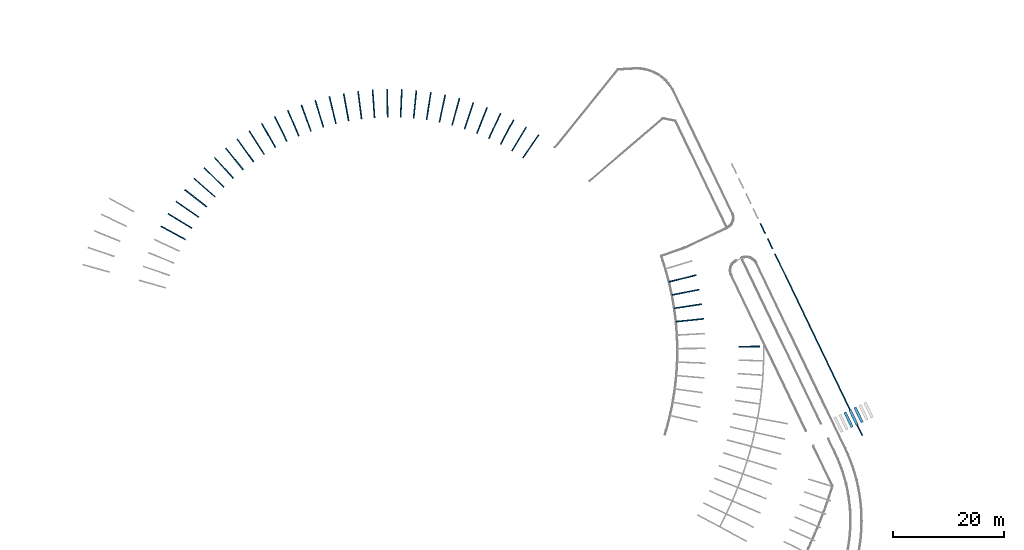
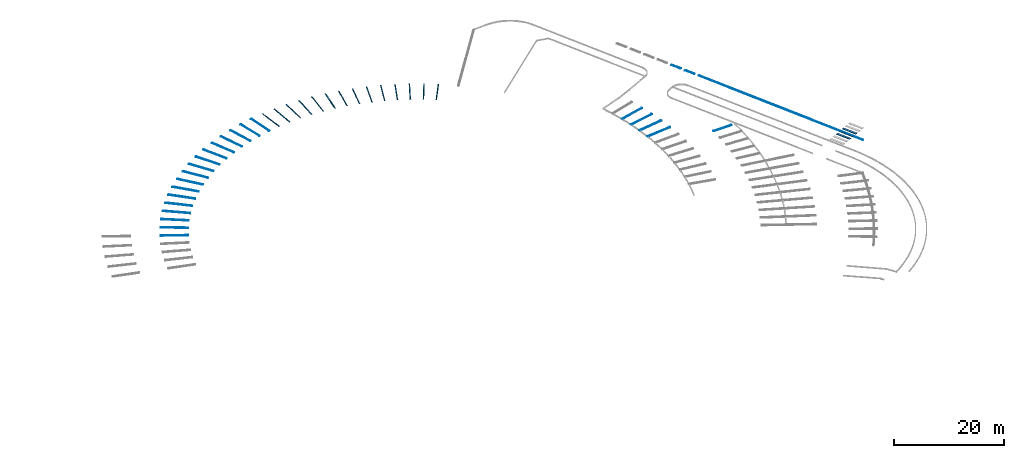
# One storey, part 91 of 157: 42 walls.
"""IFC2X3 building model written with IfcOpenShell, lengths in millimetres."""

from ifc_helpers import new_model, entity, si_unit, converted_unit, derived_unit, direction, frame, frame_2d, origin, origin_2d_with_axis, place, context, subcontext, project, spatial, rectangle, extrude, material, type_object, element, save


model = new_model("IFC2X3")

# Units and contexts
model_context = context("Model", 3, precision=0.01, world=origin(), true_north=direction((6.123031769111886e-17, 1.0)))
body_context = subcontext(model_context, "Body", "Model", "MODEL_VIEW")
ifc_project = project(units=[si_unit("LENGTHUNIT", "METRE", prefix="MILLI"), si_unit("AREAUNIT", "SQUARE_METRE"), si_unit("VOLUMEUNIT", "CUBIC_METRE"), converted_unit("PLANEANGLEUNIT", "DEGREE", entity("IfcRatioMeasure", 0.017453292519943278), si_unit("PLANEANGLEUNIT", "RADIAN"), dimensions=[0, 0, 0, 0, 0, 0, 0]), si_unit("MASSUNIT", "GRAM", prefix="KILO"), derived_unit("MASSDENSITYUNIT", [(si_unit("MASSUNIT", "GRAM", prefix="KILO"), 1), (si_unit("LENGTHUNIT", "METRE"), -3)]), derived_unit("MOMENTOFINERTIAUNIT", [(si_unit("LENGTHUNIT", "METRE"), 4)]), si_unit("TIMEUNIT", "SECOND"), si_unit("FREQUENCYUNIT", "HERTZ"), si_unit("THERMODYNAMICTEMPERATUREUNIT", "DEGREE_CELSIUS"), derived_unit("THERMALTRANSMITTANCEUNIT", [(si_unit("MASSUNIT", "GRAM", prefix="KILO"), 1), (si_unit("THERMODYNAMICTEMPERATUREUNIT", "KELVIN"), -1), (si_unit("TIMEUNIT", "SECOND"), -3)]), derived_unit("THERMALCONDUCTANCEUNIT", [(si_unit("MASSUNIT", "GRAM", prefix="KILO"), 1), (si_unit("LENGTHUNIT", "METRE"), 1), (si_unit("THERMODYNAMICTEMPERATUREUNIT", "KELVIN"), -1), (si_unit("TIMEUNIT", "SECOND"), -3)]), derived_unit("VOLUMETRICFLOWRATEUNIT", [(si_unit("LENGTHUNIT", "METRE"), 3), (si_unit("TIMEUNIT", "SECOND"), -1)]), derived_unit("MASSFLOWRATEUNIT", [(si_unit("MASSUNIT", "GRAM", prefix="KILO"), 1), (si_unit("TIMEUNIT", "SECOND"), -1)]), derived_unit("ROTATIONALFREQUENCYUNIT", [(si_unit("TIMEUNIT", "SECOND"), -1)]), si_unit("ELECTRICCURRENTUNIT", "AMPERE"), si_unit("ELECTRICVOLTAGEUNIT", "VOLT"), si_unit("POWERUNIT", "WATT"), converted_unit("FORCEUNIT", "KIP", entity("IfcRatioMeasure", 2.088543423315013e-05), si_unit("FORCEUNIT", "NEWTON"), dimensions=[1, 1, -2, 0, 0, 0, 0]), si_unit("ILLUMINANCEUNIT", "LUX"), si_unit("LUMINOUSFLUXUNIT", "LUMEN"), si_unit("LUMINOUSINTENSITYUNIT", "CANDELA"), derived_unit("USERDEFINED", [(si_unit("MASSUNIT", "GRAM", prefix="KILO"), -1), (si_unit("LENGTHUNIT", "METRE"), -2), (si_unit("TIMEUNIT", "SECOND"), 3), (si_unit("LUMINOUSFLUXUNIT", "LUMEN"), 1)]), derived_unit("USERDEFINED", [(si_unit("MASSUNIT", "GRAM", prefix="KILO"), 1), (si_unit("LENGTHUNIT", "METRE"), 3), (si_unit("TIMEUNIT", "SECOND"), -3), (si_unit("ELECTRICCURRENTUNIT", "AMPERE"), -2)]), derived_unit("USERDEFINED", [(si_unit("LENGTHUNIT", "METRE"), 2), (si_unit("TIMEUNIT", "SECOND"), -2)]), derived_unit("SOUNDPOWERUNIT", [(si_unit("MASSUNIT", "GRAM", prefix="KILO"), 1), (si_unit("LENGTHUNIT", "METRE"), 2), (si_unit("TIMEUNIT", "SECOND"), -3)]), derived_unit("SOUNDPRESSUREUNIT", [(si_unit("MASSUNIT", "GRAM", prefix="KILO"), 1), (si_unit("LENGTHUNIT", "METRE"), -1), (si_unit("TIMEUNIT", "SECOND"), -2)]), derived_unit("LINEARVELOCITYUNIT", [(si_unit("LENGTHUNIT", "METRE"), 1), (si_unit("TIMEUNIT", "SECOND"), -1)]), si_unit("PRESSUREUNIT", "PASCAL"), derived_unit("USERDEFINED", [(si_unit("LENGTHUNIT", "METRE"), -2), (si_unit("MASSUNIT", "GRAM", prefix="KILO"), 1), (si_unit("TIMEUNIT", "SECOND"), -2)]), derived_unit("LINEARFORCEUNIT", [(si_unit("MASSUNIT", "GRAM", prefix="KILO"), 1), (si_unit("LENGTHUNIT", "METRE"), 1), (si_unit("TIMEUNIT", "SECOND"), -2), (si_unit("LENGTHUNIT", "METRE"), -1)]), derived_unit("PLANARFORCEUNIT", [(si_unit("MASSUNIT", "GRAM", prefix="KILO"), 1), (si_unit("LENGTHUNIT", "METRE"), 1), (si_unit("TIMEUNIT", "SECOND"), -2), (si_unit("LENGTHUNIT", "METRE"), -2)]), derived_unit("SPECIFICHEATCAPACITYUNIT", [(si_unit("LENGTHUNIT", "METRE"), 2), (si_unit("TIMEUNIT", "SECOND"), -2), (si_unit("THERMODYNAMICTEMPERATUREUNIT", "KELVIN"), -1)]), derived_unit("VAPORPERMEABILITYUNIT", [(si_unit("TIMEUNIT", "SECOND"), 1), (si_unit("LENGTHUNIT", "METRE"), -1)]), derived_unit("DYNAMICVISCOSITYUNIT", [(si_unit("MASSUNIT", "GRAM", prefix="KILO"), 1), (si_unit("LENGTHUNIT", "METRE"), -1), (si_unit("TIMEUNIT", "SECOND"), -1)]), derived_unit("THERMALEXPANSIONCOEFFICIENTUNIT", [(si_unit("THERMODYNAMICTEMPERATUREUNIT", "KELVIN"), -1)])], contexts=[model_context])

# Site, building, storey
site_placement = place(None, frame((0.0, 0.0, 0.0), z_axis=(0.0, 0.0, 1.0), x_axis=(0.8191520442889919, 0.5735764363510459, 0.0)))
site = spatial("IfcSite", under=ifc_project, at=site_placement, Name="Default", CompositionType="ELEMENT")
building_placement = place(site_placement, origin())
building = spatial("IfcBuilding", under=site, at=building_placement, CompositionType="ELEMENT")
storey_placement = place(building_placement, origin())
storey = spatial("IfcBuildingStorey", under=building, at=storey_placement, Name="1.EG +0.00", CompositionType="ELEMENT", Elevation=-4.331468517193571e-12)

# Walls
ifc_material = material(Name="road_markirovka")
wall_type_1 = type_object("IfcWallType", Name="83", PredefinedType="NOTDEFINED", material=ifc_material)
wall_1_placement = place(storey_placement, frame((-61431.673957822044, -30426.857752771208, 400.0), z_axis=(0.0, 0.0, 1.0), x_axis=(0.0, 1.0, 0.0)))
element("IfcWall", 1, at=wall_1_placement, inside=storey, type_object=wall_type_1, material=ifc_material, Name="83 203187:83 203187", ObjectType="83 203187:83 203187", context=body_context, shape_type="SweptSolid", body=[
    extrude(rectangle(XDim=200.0, YDim=5000.000000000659, at=frame_2d((3.858247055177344e-12, -1.8189894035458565e-12), x_axis=(1.0, 0.0))), frame((2280.762941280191, -1207.5329403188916, 0.0), z_axis=(0.0, 0.0, 1.0), x_axis=(0.4472365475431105, -0.8944157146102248, 0.0)), (0.0, 0.0, 1.0), 9.999999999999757),
])
wall_type_2 = type_object("IfcWallType", Name="81", PredefinedType="NOTDEFINED", material=ifc_material)
wall_2_placement = place(storey_placement, frame((20242.18269222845, -129011.67128585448, 350.0), z_axis=(0.0, 0.0, 1.0), x_axis=(0.0, 1.0, 0.0)))
element("IfcWall", 2, at=wall_2_placement, inside=storey, type_object=wall_type_2, material=ifc_material, Name="81 204962:81 204962", ObjectType="81 204962:81 204962", context=body_context, shape_type="SweptSolid", body=[
    extrude(rectangle(XDim=199.9999999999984, YDim=36229.82861112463, at=frame_2d((-1.3500311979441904e-12, 9.094947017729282e-12), x_axis=(1.0, 0.0))), frame((17891.291949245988, -3036.6816232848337, 0.0), z_axis=(0.0, 0.0, 1.0), x_axis=(0.16218711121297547, 0.9867600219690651, 0.0)), (0.0, 0.0, 1.0), 9.999999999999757),
])
wall_type_3 = type_object("IfcWallType", Name="99", PredefinedType="NOTDEFINED", material=ifc_material)
wall_3_placement = place(storey_placement, frame((6770.390947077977, -90808.59744262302, 450.0)))
element("IfcWall", 3, at=wall_3_placement, inside=storey, type_object=wall_type_3, material=ifc_material, Name="99:99", ObjectType="99:99", context=body_context, shape_type="SweptSolid", body=[
    extrude(rectangle(XDim=200.00000000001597, YDim=4999.999999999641, at=origin_2d_with_axis()), frame((2328.300240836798, 1099.0192727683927, 0.0), z_axis=(0.0, 0.0, 1.0), x_axis=(0.4029997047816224, 0.9152001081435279, 0.0)), (0.0, 0.0, 1.0), 9.999999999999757),
])
wall_type_4 = type_object("IfcWallType", Name="98", PredefinedType="NOTDEFINED", material=ifc_material)
wall_4_placement = place(storey_placement, frame((5737.650777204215, -93213.80551710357, 450.0)))
element("IfcWall", 4, at=wall_4_placement, inside=storey, type_object=wall_type_4, material=ifc_material, Name="98:98", ObjectType="98:98", context=body_context, shape_type="SweptSolid", body=[
    extrude(rectangle(XDim=200.0000000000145, YDim=4999.999999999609, at=frame_2d((7.311484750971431e-12, 4.547473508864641e-12), x_axis=(1.0, 0.0))), frame((2282.634585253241, 1203.5357259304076, 0.0), z_axis=(0.0, 0.0, 1.0), x_axis=(0.44560510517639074, 0.8952296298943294, 0.0)), (0.0, 0.0, 1.0), 9.999999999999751),
])
wall_type_5 = type_object("IfcWallType", Name="97", PredefinedType="NOTDEFINED", material=ifc_material)
wall_5_placement = place(storey_placement, frame((4602.9324376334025, -95563.07318523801, 450.0)))
element("IfcWall", 5, at=wall_5_placement, inside=storey, type_object=wall_type_5, material=ifc_material, Name="97:97", ObjectType="97:97", context=body_context, shape_type="SweptSolid", body=[
    extrude(rectangle(XDim=200.00000000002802, YDim=4999.999999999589, at=frame_2d((-9.407585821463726e-12, -9.094947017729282e-13), x_axis=(1.0, 0.0))), frame((2231.915085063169, 1305.387502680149, 0.0), z_axis=(0.0, 0.0, 1.0), x_axis=(0.48722391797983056, 0.8732770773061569, 0.0)), (0.0, 0.0, 1.0), 9.999999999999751),
])
wall_type_6 = type_object("IfcWallType", Name="99", PredefinedType="NOTDEFINED", material=ifc_material)
wall_6_placement = place(storey_placement, frame((11242.14878022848, -105398.48595152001, 410.0)))
element("IfcWall", 6, at=wall_6_placement, inside=storey, type_object=wall_type_6, material=ifc_material, Name="99 206446:99 206446", ObjectType="99 206446:99 206446", context=body_context, shape_type="SweptSolid", body=[
    extrude(rectangle(XDim=199.9999999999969, YDim=3782.607252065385, at=frame_2d((6.565414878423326e-12, 6.0254023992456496e-12), x_axis=(1.0, 0.0))), frame((1618.4621091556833, 1148.857645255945, 0.0), z_axis=(0.0, 0.0, 1.0), x_axis=(0.5637723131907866, 0.8259302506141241, 0.0)), (0.0, 0.0, 1.0), 9.999999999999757),
])
wall_type_7 = type_object("IfcWallType", Name="82", PredefinedType="NOTDEFINED", material=ifc_material)
wall_7_placement = place(storey_placement, frame((26766.942379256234, -89314.4847217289, 350.0), z_axis=(0.0, 0.0, 1.0), x_axis=(0.0, 1.0, 0.0)))
element("IfcWall", 7, at=wall_7_placement, inside=storey, type_object=wall_type_7, material=ifc_material, Name="82 206546:82 206546", ObjectType="82 206546:82 206546", context=body_context, shape_type="SweptSolid", body=[
    extrude(rectangle(XDim=200.00000000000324, YDim=2000.0000000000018, at=frame_2d((-7.318590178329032e-13, -8.924416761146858e-12), x_axis=(1.0, 0.0))), frame((1002.9787330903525, -260.86311340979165, 0.0), z_axis=(0.0, 0.0, 1.0), x_axis=(0.16218711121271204, 0.9867600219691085, 0.0)), (0.0, 0.0, 1.0), 9.999999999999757),
])
wall_type_8 = type_object("IfcWallType", Name="81", PredefinedType="NOTDEFINED", material=ifc_material)
wall_8_placement = place(storey_placement, frame((26280.38104561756, -92274.76478763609, 350.0), z_axis=(0.0, 0.0, 1.0), x_axis=(0.0, 1.0, 0.0)))
element("IfcWall", 8, at=wall_8_placement, inside=storey, type_object=wall_type_8, material=ifc_material, Name="81 206547:81 206547", ObjectType="81 206547:81 206547", context=body_context, shape_type="SweptSolid", body=[
    extrude(rectangle(XDim=199.99999999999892, YDim=1999.9999999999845, at=frame_2d((4.952482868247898e-12, -1.6768808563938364e-11), x_axis=(1.0, 0.0))), frame((1002.9787330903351, -260.863113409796, 0.0), z_axis=(0.0, 0.0, 1.0), x_axis=(0.1621871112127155, 0.986760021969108, 0.0)), (0.0, 0.0, 1.0), 9.999999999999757),
])
wall_type_9 = type_object("IfcWallType", Name="00", PredefinedType="NOTDEFINED", material=ifc_material)
wall_9_placement = place(storey_placement, frame((7698.8664190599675, -88352.77418902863, 450.0)))
element("IfcWall", 9, at=wall_9_placement, inside=storey, type_object=wall_type_9, material=ifc_material, Name="00 206555:00 206555", ObjectType="00 206555:00 206555", context=body_context, shape_type="SweptSolid", body=[
    extrude(rectangle(XDim=199.99999999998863, YDim=4999.999999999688, at=frame_2d((7.51754214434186e-12, 4.547473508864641e-12), x_axis=(1.0, 0.0))), frame((2368.8109462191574, 992.0695468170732, 0.0), z_axis=(0.0, 0.0, 1.0), x_axis=(0.35950204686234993, 0.9331442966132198, 0.0)), (0.0, 0.0, 1.0), 9.999999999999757),
])
wall_type_10 = type_object("IfcWallType", Name="02", PredefinedType="NOTDEFINED", material=ifc_material)
wall_10_placement = place(storey_placement, frame((-2949.7824114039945, -48960.21146410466, 400.0)))
element("IfcWall", 10, at=wall_10_placement, inside=storey, type_object=wall_type_10, material=ifc_material, Name="02:02", ObjectType="02:02", context=body_context, shape_type="SweptSolid", body=[
    extrude(rectangle(XDim=199.99999999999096, YDim=5000.000000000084, at=frame_2d((3.723243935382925e-12, -2.2737367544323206e-12), x_axis=(1.0, 0.0))), frame((2272.6673401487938, 1224.5942042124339, 0.0), z_axis=(0.0, 0.0, 1.0), x_axis=(-0.45420172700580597, 0.8908988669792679, 0.0)), (0.0, 0.0, 1.0), 9.999999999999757),
])
wall_type_11 = type_object("IfcWallType", Name="04", PredefinedType="NOTDEFINED", material=ifc_material)
wall_11_placement = place(storey_placement, frame((-1047.1981333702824, -53252.213765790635, 400.0)))
element("IfcWall", 11, at=wall_11_placement, inside=storey, type_object=wall_type_11, material=ifc_material, Name="04 206644:04 206644", ObjectType="04 206644:04 206644", context=body_context, shape_type="SweptSolid", body=[
    extrude(rectangle(XDim=199.99999999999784, YDim=5000.000000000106, at=frame_2d((8.462563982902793e-12, -2.2737367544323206e-12), x_axis=(1.0, 0.0))), frame((2375.100440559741, 973.8917276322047, 0.0), z_axis=(0.0, 0.0, 1.0), x_axis=(-0.3521184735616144, 0.9359554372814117, 0.0)), (0.0, 0.0, 1.0), 9.999999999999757),
])
wall_type_12 = type_object("IfcWallType", Name="02", PredefinedType="NOTDEFINED", material=ifc_material)
wall_12_placement = place(storey_placement, frame((-4077.2826929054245, -46899.632795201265, 400.0)))
element("IfcWall", 12, at=wall_12_placement, inside=storey, type_object=wall_type_12, material=ifc_material, Name="02 206647:02 206647", ObjectType="02 206647:02 206647", context=body_context, shape_type="SweptSolid", body=[
    extrude(rectangle(XDim=199.99999999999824, YDim=5000.000000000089, at=frame_2d((-3.723243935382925e-12, 2.2737367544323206e-12), x_axis=(1.0, 0.0))), frame((2210.7456572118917, 1344.4157393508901, 0.0), z_axis=(0.0, 0.0, 1.0), x_axis=(-0.5031994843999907, 0.8641702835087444, 0.0)), (0.0, 0.0, 1.0), 9.999999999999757),
])
wall_type_13 = type_object("IfcWallType", Name="00", PredefinedType="NOTDEFINED", material=ifc_material)
wall_13_placement = place(storey_placement, frame((-6667.148552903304, -42981.395971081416, 400.0)))
element("IfcWall", 13, at=wall_13_placement, inside=storey, type_object=wall_type_13, material=ifc_material, Name="00 206648:00 206648", ObjectType="00 206648:00 206648", context=body_context, shape_type="SweptSolid", body=[
    extrude(rectangle(XDim=199.99999999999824, YDim=5000.000000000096, at=frame_2d((3.588240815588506e-12, -2.2737367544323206e-12), x_axis=(1.0, 0.0))), frame((2066.4559162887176, 1571.134227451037, 0.0), z_axis=(0.0, 0.0, 1.0), x_axis=(-0.5963445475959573, 0.802728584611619, 0.0)), (0.0, 0.0, 1.0), 9.999999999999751),
])
wall_type_14 = type_object("IfcWallType", Name="99", PredefinedType="NOTDEFINED", material=ifc_material)
wall_14_placement = place(storey_placement, frame((-8121.446187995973, -41135.943897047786, 400.0)))
element("IfcWall", 14, at=wall_14_placement, inside=storey, type_object=wall_type_14, material=ifc_material, Name="99 206651:99 206651", ObjectType="99 206651:99 206651", context=body_context, shape_type="SweptSolid", body=[
    extrude(rectangle(XDim=200.00000000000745, YDim=5000.000000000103, at=frame_2d((2.7000623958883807e-13, 2.2737367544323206e-13), x_axis=(1.0, 0.0))), frame((1984.5373493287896, 1677.3249075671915, 0.0), z_axis=(0.0, 0.0, 1.0), x_axis=(-0.6402016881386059, 0.7682068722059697, 0.0)), (0.0, 0.0, 1.0), 9.999999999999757),
])
wall_type_15 = type_object("IfcWallType", Name="98", PredefinedType="NOTDEFINED", material=ifc_material)
wall_15_placement = place(storey_placement, frame((-9676.055261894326, -39374.015406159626, 400.0)))
element("IfcWall", 15, at=wall_15_placement, inside=storey, type_object=wall_type_15, material=ifc_material, Name="98 206652:98 206652", ObjectType="98 206652:98 206652", context=body_context, shape_type="SweptSolid", body=[
    extrude(rectangle(XDim=200.00000000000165, YDim=5000.000000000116, at=frame_2d((-2.7000623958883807e-13, -4.547473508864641e-13), x_axis=(1.0, 0.0))), frame((1896.43655677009, 1778.29038948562, 0.0), z_axis=(0.0, 0.0, 1.0), x_axis=(-0.6820644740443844, 0.7312920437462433, 0.0)), (0.0, 0.0, 1.0), 9.999999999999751),
])
wall_type_16 = type_object("IfcWallType", Name="96", PredefinedType="NOTDEFINED", material=ifc_material)
wall_16_placement = place(storey_placement, frame((-13066.538666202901, -36122.406903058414, 400.0), z_axis=(0.0, 0.0, 1.0), x_axis=(0.0, 1.0, 0.0)))
element("IfcWall", 16, at=wall_16_placement, inside=storey, type_object=wall_type_16, material=ifc_material, Name="96 206655:96 206655", ObjectType="96 206655:96 206655", context=body_context, shape_type="SweptSolid", body=[
    extrude(rectangle(XDim=199.9999999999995, YDim=5000.000000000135, at=frame_2d((-2.2382096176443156e-12, 9.094947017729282e-13), x_axis=(1.0, 0.0))), frame((1963.3049064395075, -1702.8045041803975, 0.0), z_axis=(0.0, 0.0, 1.0), x_axis=(0.6507501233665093, 0.7592919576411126, 0.0)), (0.0, 0.0, 1.0), 9.999999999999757),
])
wall_type_17 = type_object("IfcWallType", Name="96", PredefinedType="NOTDEFINED", material=ifc_material)
wall_17_placement = place(storey_placement, frame((-14891.850971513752, -34642.85629321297, 400.0), z_axis=(0.0, 0.0, 1.0), x_axis=(0.0, 1.0, 0.0)))
element("IfcWall", 17, at=wall_17_placement, inside=storey, type_object=wall_type_17, material=ifc_material, Name="96 206656:96 206656", ObjectType="96 206656:96 206656", context=body_context, shape_type="SweptSolid", body=[
    extrude(rectangle(XDim=199.99999999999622, YDim=5000.000000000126, at=frame_2d((3.0482283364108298e-12, -2.2737367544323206e-13), x_axis=(1.0, 0.0))), frame((2046.777584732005, -1597.876446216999, 0.0), z_axis=(0.0, 0.0, 1.0), x_axis=(0.607373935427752, 0.7944160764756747, 0.0)), (0.0, 0.0, 1.0), 9.999999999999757),
])
wall_type_18 = type_object("IfcWallType", Name="95", PredefinedType="NOTDEFINED", material=ifc_material)
wall_18_placement = place(storey_placement, frame((-18774.203461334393, -31999.293459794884, 400.0), z_axis=(0.0, 0.0, 1.0), x_axis=(0.0, 1.0, 0.0)))
element("IfcWall", 18, at=wall_18_placement, inside=storey, type_object=wall_type_18, material=ifc_material, Name="95 206659:95 206659", ObjectType="95 206659:95 206659", context=body_context, shape_type="SweptSolid", body=[
    extrude(rectangle(XDim=200.00000000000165, YDim=5000.000000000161, at=frame_2d((-1.1439738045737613e-12, 1.8189894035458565e-12), x_axis=(1.0, 0.0))), frame((2194.354421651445, -1373.4296067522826, 0.0), z_axis=(0.0, 0.0, 1.0), x_axis=(0.515086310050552, 0.8571383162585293, 0.0)), (0.0, 0.0, 1.0), 9.999999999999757),
])
wall_type_19 = type_object("IfcWallType", Name="96", PredefinedType="NOTDEFINED", material=ifc_material)
wall_19_placement = place(storey_placement, frame((-16796.383568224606, -33267.05651616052, 400.0), z_axis=(0.0, 0.0, 1.0), x_axis=(0.0, 1.0, 0.0)))
element("IfcWall", 19, at=wall_19_placement, inside=storey, type_object=wall_type_19, material=ifc_material, Name="96 206660:96 206660", ObjectType="96 206660:96 206660", context=body_context, shape_type="SweptSolid", body=[
    extrude(rectangle(XDim=199.9999999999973, YDim=5000.00000000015, at=origin_2d_with_axis()), frame((2123.874146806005, -1487.9706876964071, 0.0), z_axis=(0.0, 0.0, 1.0), x_axis=(0.5621056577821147, 0.8270654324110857, 0.0)), (0.0, 0.0, 1.0), 9.999999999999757),
])
wall_type_20 = type_object("IfcWallType", Name="94", PredefinedType="NOTDEFINED", material=ifc_material)
wall_20_placement = place(storey_placement, frame((-20819.1493514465, -30843.516456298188, 400.0), z_axis=(0.0, 0.0, 1.0), x_axis=(0.0, 1.0, 0.0)))
element("IfcWall", 20, at=wall_20_placement, inside=storey, type_object=wall_type_20, material=ifc_material, Name="94 206662:94 206662", ObjectType="94 206662:94 206662", context=body_context, shape_type="SweptSolid", body=[
    extrude(rectangle(XDim=199.99999999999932, YDim=5000.000000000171, at=origin_2d_with_axis()), frame((2257.9988492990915, -1254.6100214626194, 0.0), z_axis=(0.0, 0.0, 1.0), x_axis=(0.46646236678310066, 0.8845410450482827, 0.0)), (0.0, 0.0, 1.0), 9.999999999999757),
])
wall_type_21 = type_object("IfcWallType", Name="03", PredefinedType="NOTDEFINED", material=ifc_material)
wall_21_placement = place(storey_placement, frame((-1938.7043222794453, -51079.93957814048, 400.0)))
element("IfcWall", 21, at=wall_21_placement, inside=storey, type_object=wall_type_21, material=ifc_material, Name="03:03", ObjectType="03:03", context=body_context, shape_type="SweptSolid", body=[
    extrude(rectangle(XDim=199.99999999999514, YDim=5000.000000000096, at=frame_2d((-4.760636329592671e-13, -9.094947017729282e-13), x_axis=(1.0, 0.0))), frame((2327.5092156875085, 1100.9578163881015, 0.0), z_axis=(0.0, 0.0, 1.0), x_axis=(-0.40378904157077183, 0.914852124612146, 0.0)), (0.0, 0.0, 1.0), 9.999999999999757),
])
wall_type_22 = type_object("IfcWallType", Name="94", PredefinedType="NOTDEFINED", material=ifc_material)
wall_22_placement = place(storey_placement, frame((-22924.850828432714, -29803.32597919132, 400.0), z_axis=(0.0, 0.0, 1.0), x_axis=(0.0, 1.0, 0.0)))
element("IfcWall", 22, at=wall_22_placement, inside=storey, type_object=wall_type_22, material=ifc_material, Name="94 206686:94 206686", ObjectType="94 206686:94 206686", context=body_context, shape_type="SweptSolid", body=[
    extrude(rectangle(XDim=199.99999999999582, YDim=5000.000000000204, at=origin_2d_with_axis()), frame((2314.6091647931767, -1131.8820782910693, 0.0), z_axis=(0.0, 0.0, 1.0), x_axis=(-0.416385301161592, -0.909188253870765, 0.0)), (0.0, 0.0, 1.0), 9.999999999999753),
])
wall_type_23 = type_object("IfcWallType", Name="93", PredefinedType="NOTDEFINED", material=ifc_material)
wall_23_placement = place(storey_placement, frame((-25084.74821651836, -28881.962427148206, 400.0), z_axis=(0.0, 0.0, 1.0), x_axis=(0.0, 1.0, 0.0)))
element("IfcWall", 23, at=wall_23_placement, inside=storey, type_object=wall_type_23, material=ifc_material, Name="93 206689:93 206689", ObjectType="93 206689:93 206689", context=body_context, shape_type="SweptSolid", body=[
    extrude(rectangle(XDim=199.99999999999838, YDim=5000.0000000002, at=origin_2d_with_axis()), frame((2364.009015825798, -1005.628099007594, 0.0), z_axis=(0.0, 0.0, 1.0), x_axis=(-0.3650111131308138, -0.9310031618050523, 0.0)), (0.0, 0.0, 1.0), 9.999999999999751),
])
wall_type_24 = type_object("IfcWallType", Name="89", PredefinedType="NOTDEFINED", material=ifc_material)
wall_24_placement = place(storey_placement, frame((-34129.63761165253, -26436.450039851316, 400.0), z_axis=(0.0, 0.0, 1.0), x_axis=(0.0, 1.0, 0.0)))
element("IfcWall", 24, at=wall_24_placement, inside=storey, type_object=wall_type_24, material=ifc_material, Name="89 206692:89 206692", ObjectType="89 206692:89 206692", context=body_context, shape_type="SweptSolid", body=[
    extrude(rectangle(XDim=199.9999999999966, YDim=5000.000000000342, at=origin_2d_with_axis()), frame((2486.7724657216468, -473.35676795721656, 0.0), z_axis=(0.0, 0.0, 1.0), x_axis=(-0.14979401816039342, -0.9887172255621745, 0.0)), (0.0, 0.0, 1.0), 9.999999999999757),
])
wall_type_25 = type_object("IfcWallType", Name="90", PredefinedType="NOTDEFINED", material=ifc_material)
wall_25_placement = place(storey_placement, frame((-31821.612849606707, -26857.632301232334, 400.0), z_axis=(0.0, 0.0, 1.0), x_axis=(0.0, 1.0, 0.0)))
element("IfcWall", 25, at=wall_25_placement, inside=storey, type_object=wall_type_25, material=ifc_material, Name="90 206693:90 206693", ObjectType="90 206693:90 206693", context=body_context, shape_type="SweptSolid", body=[
    extrude(rectangle(XDim=200.000000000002, YDim=5000.000000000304, at=origin_2d_with_axis()), frame((2467.5219943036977, -609.6905449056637, 0.0), z_axis=(0.0, 0.0, 1.0), x_axis=(-0.20472342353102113, -0.9788198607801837, 0.0)), (0.0, 0.0, 1.0), 9.999999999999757),
])
wall_type_26 = type_object("IfcWallType", Name="92", PredefinedType="NOTDEFINED", material=ifc_material)
wall_26_placement = place(storey_placement, frame((-27292.1130089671, -28082.296029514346, 400.0), z_axis=(0.0, 0.0, 1.0), x_axis=(0.0, 1.0, 0.0)))
element("IfcWall", 26, at=wall_26_placement, inside=storey, type_object=wall_type_26, material=ifc_material, Name="92 206694:92 206694", ObjectType="92 206694:92 206694", context=body_context, shape_type="SweptSolid", body=[
    extrude(rectangle(XDim=199.99999999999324, YDim=5000.0000000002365, at=frame_2d((-2.0321522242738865e-12, -6.821210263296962e-13), x_axis=(1.0, 0.0))), frame((2406.0445121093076, -876.2413896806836, 0.0), z_axis=(0.0, 0.0, 1.0), x_axis=(-0.3124998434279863, -0.949917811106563, 0.0)), (0.0, 0.0, 1.0), 9.999999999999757),
])
wall_type_27 = type_object("IfcWallType", Name="91", PredefinedType="NOTDEFINED", material=ifc_material)
wall_27_placement = place(storey_placement, frame((-29539.09393383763, -27407.061038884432, 400.0), z_axis=(0.0, 0.0, 1.0), x_axis=(0.0, 1.0, 0.0)))
element("IfcWall", 27, at=wall_27_placement, inside=storey, type_object=wall_type_27, material=ifc_material, Name="91 206697:91 206697", ObjectType="91 206697:91 206697", context=body_context, shape_type="SweptSolid", body=[
    extrude(rectangle(XDim=199.99999999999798, YDim=5000.000000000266, at=frame_2d((1.4921397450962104e-12, 2.7284841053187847e-12), x_axis=(1.0, 0.0))), frame((2440.6964702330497, -743.6401953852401, 0.0), z_axis=(0.0, 0.0, 1.0), x_axis=(-0.2588190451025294, -0.965925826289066, 0.0)), (0.0, 0.0, 1.0), 9.999999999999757),
])
wall_type_28 = type_object("IfcWallType", Name="88", PredefinedType="NOTDEFINED", material=ifc_material)
wall_28_placement = place(storey_placement, frame((-36456.95316209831, -26144.58318671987, 400.0), z_axis=(0.0, 0.0, 1.0), x_axis=(0.0, 1.0, 0.0)))
element("IfcWall", 28, at=wall_28_placement, inside=storey, type_object=wall_type_28, material=ifc_material, Name="88 206699:88 206699", ObjectType="88 206699:88 206699", context=body_context, shape_type="SweptSolid", body=[
    extrude(rectangle(XDim=200.0000000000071, YDim=5000.000000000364, at=frame_2d((-1.9255708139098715e-12, -2.5011104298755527e-12), x_axis=(1.0, 0.0))), frame((2498.2761500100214, -335.54839123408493, 0.0), z_axis=(0.0, 0.0, 1.0), x_axis=(0.09439797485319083, 0.9955345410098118, 0.0)), (0.0, 0.0, 1.0), 9.999999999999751),
])
wall_type_29 = type_object("IfcWallType", Name="85", PredefinedType="NOTDEFINED", material=ifc_material)
wall_29_placement = place(storey_placement, frame((-46455.649361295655, -26308.03917683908, 400.0), z_axis=(0.0, 0.0, 1.0), x_axis=(0.0, 1.0, 0.0)))
element("IfcWall", 29, at=wall_29_placement, inside=storey, type_object=wall_type_29, material=ifc_material, Name="85 206701:85 206701", ObjectType="85 206701:85 206701", context=body_context, shape_type="SweptSolid", body=[
    extrude(rectangle(XDim=199.9999999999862, YDim=5000.000000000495, at=frame_2d((3.055333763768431e-13, 2.2737367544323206e-12), x_axis=(1.0, 0.0))), frame((2492.148235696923, -420.1490870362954, 0.0), z_axis=(0.0, 0.0, 1.0), x_axis=(0.12839068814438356, -0.9917236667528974, 0.0)), (0.0, 0.0, 1.0), 9.999999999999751),
])
wall_type_30 = type_object("IfcWallType", Name="88", PredefinedType="NOTDEFINED", material=ifc_material)
wall_30_placement = place(storey_placement, frame((-38796.309453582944, -25982.940964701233, 400.0), z_axis=(0.0, 0.0, 1.0), x_axis=(0.0, 1.0, 0.0)))
element("IfcWall", 30, at=wall_30_placement, inside=storey, type_object=wall_type_30, material=ifc_material, Name="88 206703:88 206703", ObjectType="88 206703:88 206703", context=body_context, shape_type="SweptSolid", body=[
    extrude(rectangle(XDim=200.00000000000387, YDim=5000.000000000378, at=frame_2d((4.412470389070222e-12, -2.0463630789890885e-12), x_axis=(1.0, 0.0))), frame((2501.9972109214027, -196.6947150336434, 0.0), z_axis=(0.0, 0.0, 1.0), x_axis=(-0.03870786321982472, -0.9992505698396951, 0.0)), (0.0, 0.0, 1.0), 9.999999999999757),
])
wall_type_31 = type_object("IfcWallType", Name="87", PredefinedType="NOTDEFINED", material=ifc_material)
wall_31_placement = place(storey_placement, frame((-41225.933084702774, -25955.44748743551, 400.0), z_axis=(0.0, 0.0, 1.0), x_axis=(0.0, 1.0, 0.0)))
element("IfcWall", 31, at=wall_31_placement, inside=storey, type_object=wall_type_31, material=ifc_material, Name="87 206704:87 206704", ObjectType="87 206704:87 206704", context=body_context, shape_type="SweptSolid", body=[
    extrude(rectangle(XDim=199.9999999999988, YDim=5000.000000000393, at=frame_2d((-2.842170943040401e-14, -2.0463630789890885e-12), x_axis=(1.0, 0.0))), frame((2501.344622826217, -142.7424512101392, 0.0), z_axis=(0.0, 0.0, 1.0), x_axis=(0.0171028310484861, -0.9998537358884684, 0.0)), (0.0, 0.0, 1.0), 9.999999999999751),
])
wall_type_32 = type_object("IfcWallType", Name="86", PredefinedType="NOTDEFINED", material=ifc_material)
wall_32_placement = place(storey_placement, frame((-43846.280459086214, -26066.509408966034, 400.0), z_axis=(0.0, 0.0, 1.0), x_axis=(0.0, 1.0, 0.0)))
element("IfcWall", 32, at=wall_32_placement, inside=storey, type_object=wall_type_32, material=ifc_material, Name="86 206708:86 206708", ObjectType="86 206708:86 206708", context=body_context, shape_type="SweptSolid", body=[
    extrude(rectangle(XDim=199.99999999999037, YDim=5000.000000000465, at=frame_2d((-4.320099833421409e-12, 6.821210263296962e-13), x_axis=(1.0, 0.0))), frame((2500.6414250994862, -281.8848325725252, 0.0), z_axis=(0.0, 0.0, 1.0), x_axis=(0.07286024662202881, -0.9973421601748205, 0.0)), (0.0, 0.0, 1.0), 9.999999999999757),
])
wall_type_33 = type_object("IfcWallType", Name="84", PredefinedType="NOTDEFINED", material=ifc_material)
wall_33_placement = place(storey_placement, frame((-49045.9110921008, -26679.28437814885, 400.0), z_axis=(0.0, 0.0, 1.0), x_axis=(0.0, 1.0, 0.0)))
element("IfcWall", 33, at=wall_33_placement, inside=storey, type_object=wall_type_33, material=ifc_material, Name="84 206727:84 206727", ObjectType="84 206727:84 206727", context=body_context, shape_type="SweptSolid", body=[
    extrude(rectangle(XDim=199.9999999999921, YDim=5000.0000000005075, at=frame_2d((4.632738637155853e-12, 1.3642420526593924e-12), x_axis=(1.0, 0.0))), frame((2475.8915125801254, -557.1044941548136, 0.0), z_axis=(0.0, 0.0, 1.0), x_axis=(0.18352116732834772, -0.9830157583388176, 0.0)), (0.0, 0.0, 1.0), 9.999999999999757),
])
wall_type_34 = type_object("IfcWallType", Name="83", PredefinedType="NOTDEFINED", material=ifc_material)
wall_34_placement = place(storey_placement, frame((-51608.99647488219, -27179.088510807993, 400.0), z_axis=(0.0, 0.0, 1.0), x_axis=(0.0, 1.0, 0.0)))
element("IfcWall", 34, at=wall_34_placement, inside=storey, type_object=wall_type_34, material=ifc_material, Name="83 206807:83 206807", ObjectType="83 206807:83 206807", context=body_context, shape_type="SweptSolid", body=[
    extrude(rectangle(XDim=200.00000000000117, YDim=5000.000000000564, at=frame_2d((5.400124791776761e-13, 2.0463630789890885e-12), x_axis=(1.0, 0.0))), frame((2451.921898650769, -692.3244107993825, 0.0), z_axis=(0.0, 0.0, 1.0), x_axis=(0.23807994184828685, -0.9712455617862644, 0.0)), (0.0, 0.0, 1.0), 9.999999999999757),
])
wall_type_35 = type_object("IfcWallType", Name="81", PredefinedType="NOTDEFINED", material=ifc_material)
wall_35_placement = place(storey_placement, frame((-56621.80966168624, -28557.749979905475, 400.0), z_axis=(0.0, 0.0, 1.0), x_axis=(0.0, 1.0, 0.0)))
element("IfcWall", 35, at=wall_35_placement, inside=storey, type_object=wall_type_35, material=ifc_material, Name="81 206808:81 206808", ObjectType="81 206808:81 206808", context=body_context, shape_type="SweptSolid", body=[
    extrude(rectangle(XDim=200.00000000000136, YDim=5000.0000000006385, at=frame_2d((4.128253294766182e-12, -1.5916157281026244e-12), x_axis=(1.0, 0.0))), frame((2381.166473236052, -955.8795443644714, 0.0), z_axis=(0.0, 0.0, 1.0), x_axis=(0.34480484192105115, -0.9386743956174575, 0.0)), (0.0, 0.0, 1.0), 9.999999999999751),
])
wall_type_36 = type_object("IfcWallType", Name="97", PredefinedType="NOTDEFINED", material=ifc_material)
wall_36_placement = place(storey_placement, frame((-11326.132860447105, -37701.099253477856, 400.0), z_axis=(0.0, 0.0, 1.0), x_axis=(0.0, 1.0, 0.0)))
element("IfcWall", 36, at=wall_36_placement, inside=storey, type_object=wall_type_36, material=ifc_material, Name="97 206814:97 206814", ObjectType="97 206814:97 206814", context=body_context, shape_type="SweptSolid", body=[
    extrude(rectangle(XDim=200.00000000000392, YDim=5000.000000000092, at=frame_2d((4.050093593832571e-13, 4.547473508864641e-13), x_axis=(1.0, 0.0))), frame((1873.7161457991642, -1802.4279899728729, 0.0), z_axis=(0.0, 0.0, 1.0), x_axis=(0.6920990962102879, 0.7218024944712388, 0.0)), (0.0, 0.0, 1.0), 9.999999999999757),
])
wall_type_37 = type_object("IfcWallType", Name="82", PredefinedType="NOTDEFINED", material=ifc_material)
wall_37_placement = place(storey_placement, frame((-59055.921563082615, -29432.312513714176, 400.0), z_axis=(0.0, 0.0, 1.0), x_axis=(0.0, 1.0, 0.0)))
element("IfcWall", 37, at=wall_37_placement, inside=storey, type_object=wall_type_37, material=ifc_material, Name="82 206818:82 206818", ObjectType="82 206818:82 206818", context=body_context, shape_type="SweptSolid", body=[
    extrude(rectangle(XDim=199.9999999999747, YDim=5000.000000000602, at=origin_2d_with_axis()), frame((2334.601078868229, -1083.3937350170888, 0.0), z_axis=(0.0, 0.0, 1.0), x_axis=(0.39663849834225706, -0.9179748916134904, 0.0)), (0.0, 0.0, 1.0), 9.999999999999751),
])
wall_type_38 = type_object("IfcWallType", Name="82", PredefinedType="NOTDEFINED", material=ifc_material)
wall_38_placement = place(storey_placement, frame((-54136.92099270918, -27805.894586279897, 400.0), z_axis=(0.0, 0.0, 1.0), x_axis=(0.0, 1.0, 0.0)))
element("IfcWall", 38, at=wall_38_placement, inside=storey, type_object=wall_type_38, material=ifc_material, Name="82 206820:82 206820", ObjectType="82 206820:82 206820", context=body_context, shape_type="SweptSolid", body=[
    extrude(rectangle(XDim=200.00000000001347, YDim=5000.0000000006, at=frame_2d((-4.774847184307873e-12, -6.821210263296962e-13), x_axis=(1.0, 0.0))), frame((2420.3140639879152, -825.3876002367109, 0.0), z_axis=(0.0, 0.0, 1.0), x_axis=(0.29189705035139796, -0.9564497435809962, 0.0)), (0.0, 0.0, 1.0), 9.999999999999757),
])
wall_type_39 = type_object("IfcWallType", Name="01", PredefinedType="NOTDEFINED", material=ifc_material)
wall_39_placement = place(storey_placement, frame((-5317.6927808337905, -44904.622680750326, 400.0)))
element("IfcWall", 39, at=wall_39_placement, inside=storey, type_object=wall_type_39, material=ifc_material, Name="01 206822:01 206822", ObjectType="01 206822:01 206822", context=body_context, shape_type="SweptSolid", body=[
    extrude(rectangle(XDim=200.00000000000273, YDim=5000.000000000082, at=frame_2d((-3.588240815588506e-12, 2.5011104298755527e-12), x_axis=(1.0, 0.0))), frame((2141.93706514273, 1460.0491540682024, 0.0), z_axis=(0.0, 0.0, 1.0), x_axis=(-0.5506296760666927, 0.8347496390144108, 0.0)), (0.0, 0.0, 1.0), 9.999999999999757),
])
wall_type_40 = type_object("IfcWallType", Name="81", PredefinedType="NOTDEFINED", material=ifc_material)
wall_40_placement = place(storey_placement, frame((21425.736001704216, -127100.3499135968, 350.0), z_axis=(0.0, 0.0, 1.0), x_axis=(0.0, 1.0, 0.0)))
element("IfcWall", 40, at=wall_40_placement, inside=storey, type_object=wall_type_40, material=ifc_material, Name="81 207363:81 207363", ObjectType="81 207363:81 207363", context=body_context, shape_type="SweptSolid", body=[
    extrude(rectangle(XDim=499.999999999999, YDim=3000.000000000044, at=origin_2d_with_axis()), frame((1520.6868107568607, -489.97067231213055, 0.0), z_axis=(0.0, 0.0, 1.0), x_axis=(0.16218711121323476, 0.9867600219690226, 0.0)), (0.0, 0.0, 1.0), 9.999999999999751),
])
wall_type_41 = type_object("IfcWallType", Name="81", PredefinedType="NOTDEFINED", material=ifc_material)
wall_41_placement = place(storey_placement, frame((20438.97597973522, -126938.16280238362, 350.0), z_axis=(0.0, 0.0, 1.0), x_axis=(0.0, 1.0, 0.0)))
element("IfcWall", 41, at=wall_41_placement, inside=storey, type_object=wall_type_41, material=ifc_material, Name="81 207366:81 207366", ObjectType="81 207366:81 207366", context=body_context, shape_type="SweptSolid", body=[
    extrude(rectangle(XDim=499.999999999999, YDim=3000.000000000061, at=frame_2d((-1.4210854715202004e-12, 8.526512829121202e-12), x_axis=(1.0, 0.0))), frame((1520.6868107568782, -489.97067231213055, 0.0), z_axis=(0.0, 0.0, 1.0), x_axis=(0.16218711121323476, 0.9867600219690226, 0.0)), (0.0, 0.0, 1.0), 9.999999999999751),
])
wall_type_42 = type_object("IfcWallType", Name="81", PredefinedType="NOTDEFINED", material=ifc_material)
wall_42_placement = place(storey_placement, frame((19452.215957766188, -126775.9756911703, 350.0), z_axis=(0.0, 0.0, 1.0), x_axis=(0.0, 1.0, 0.0)))
element("IfcWall", 42, at=wall_42_placement, inside=storey, type_object=wall_type_42, material=ifc_material, Name="81 207369:81 207369", ObjectType="81 207369:81 207369", context=body_context, shape_type="SweptSolid", body=[
    extrude(rectangle(XDim=500.00000000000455, YDim=3000.000000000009, at=frame_2d((-2.1316282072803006e-12, -4.547473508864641e-13), x_axis=(1.0, 0.0))), frame((1520.6868107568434, -489.9706723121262, 0.0), z_axis=(0.0, 0.0, 1.0), x_axis=(0.16218711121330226, 0.9867600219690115, 0.0)), (0.0, 0.0, 1.0), 9.999999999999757),
])

save(model, "model.ifc")
